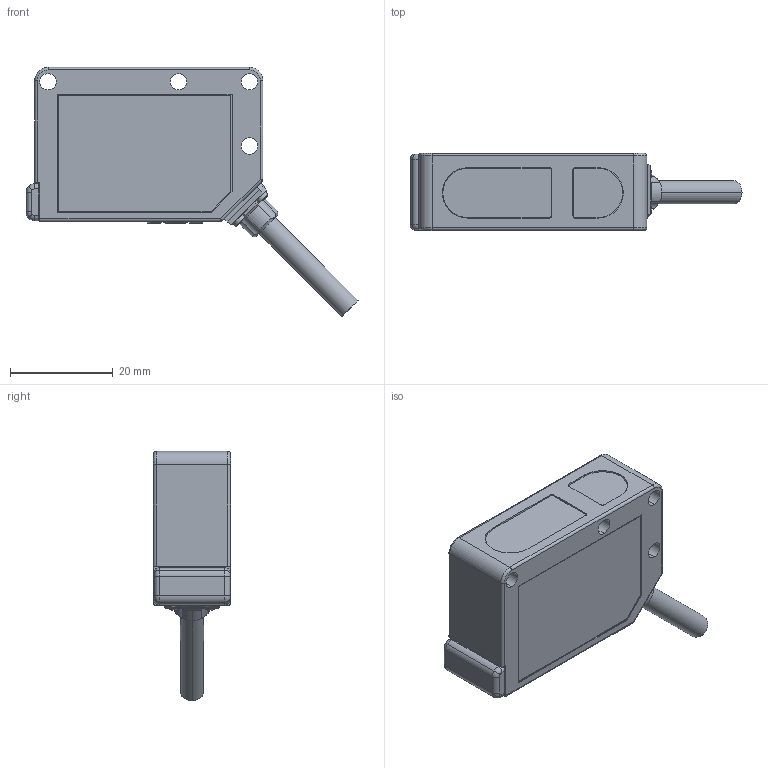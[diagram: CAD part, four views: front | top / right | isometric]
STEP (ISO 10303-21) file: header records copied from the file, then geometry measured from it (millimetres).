
FILE_DESCRIPTION (( 'STEP AP203' ), '1' );
FILE_NAME ('ZA-BL.STEP', '2025-09-11T08:09:24', ( '' ), ( '' ), 'SwSTEP 2.0', 'SolidWorks 2023', '' );
FILE_SCHEMA (( 'CONFIG_CONTROL_DESIGN' ));
Length unit declared in the file: millimetre
Products named in the file (1): ZA-BL
Bounding box: 64.62 x 15 x 48.52 mm (x, y, z)
Volume: 19459.3 mm3; surface area: 7860.9 mm2
Topology: 3 solids, 3 shells, 648 faces, 1671 edges, 1077 vertices
Faces by surface type: plane 364, cylinder 135, bspline 113, torus 20, cone 12, sphere 4
Entity records: 24230 total; most frequent: CARTESIAN_POINT 9010, ORIENTED_EDGE 3338, DIRECTION 2793, EDGE_CURVE 1669, VERTEX_POINT 1077, LINE 1033, VECTOR 1033, AXIS2_PLACEMENT_3D 880
